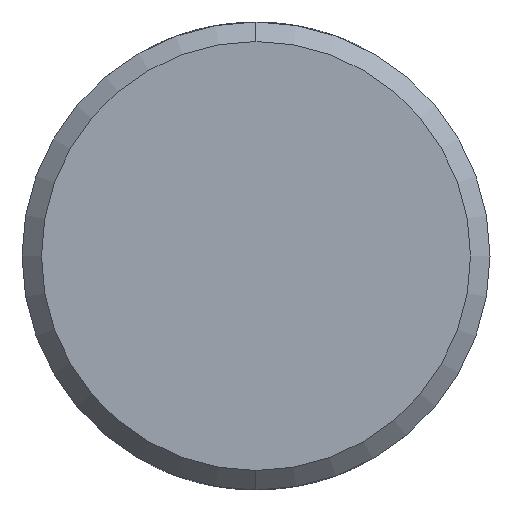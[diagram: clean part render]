
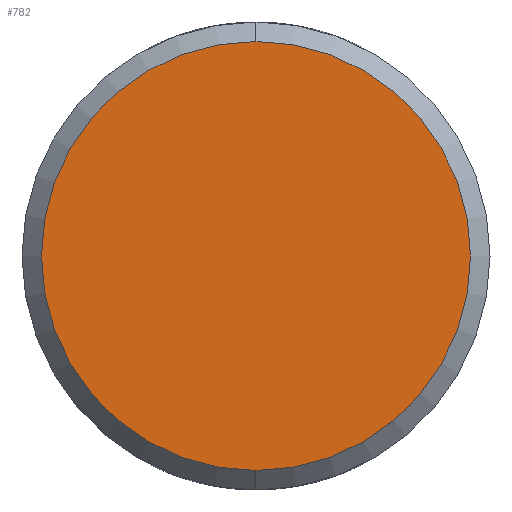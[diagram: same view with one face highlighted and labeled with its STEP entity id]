
A CAD part, left-side view. The second image highlights one B-rep face of the part: STEP entity #782.
In plain terms, the highlighted planar face has unit normal (-1, 0, 0).
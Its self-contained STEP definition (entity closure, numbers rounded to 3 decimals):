
#72 = DIRECTION ( 'NONE',  ( 0., 0., -1. ) ) ;
#179 = VERTEX_POINT ( 'NONE', #870 ) ;
#210 = ORIENTED_EDGE ( 'NONE', *, *, #845, .T. ) ;
#268 = VERTEX_POINT ( 'NONE', #645 ) ;
#325 = AXIS2_PLACEMENT_3D ( 'NONE', #533, #838, #380 ) ;
#339 = CARTESIAN_POINT ( 'NONE',  ( -57., 0., 0. ) ) ;
#380 = DIRECTION ( 'NONE',  ( 0., 0., -1. ) ) ;
#417 = DIRECTION ( 'NONE',  ( 1., 0., 0. ) ) ;
#494 = DIRECTION ( 'NONE',  ( 0., 0., -1. ) ) ;
#523 = ORIENTED_EDGE ( 'NONE', *, *, #864, .T. ) ;
#533 = CARTESIAN_POINT ( 'NONE',  ( -57., 0., 0. ) ) ;
#571 = PLANE ( 'NONE',  #636 ) ;
#636 = AXIS2_PLACEMENT_3D ( 'NONE', #339, #417, #494 ) ;
#643 = CIRCLE ( 'NONE', #991, 5.5 ) ;
#645 = CARTESIAN_POINT ( 'NONE',  ( -57., 0., 5.5 ) ) ;
#691 = CARTESIAN_POINT ( 'NONE',  ( -57., 0., 0. ) ) ;
#745 = EDGE_LOOP ( 'NONE', ( #210, #523 ) ) ;
#782 = ADVANCED_FACE ( 'NONE', ( #968 ), #571, .F. ) ;
#838 = DIRECTION ( 'NONE',  ( -1., 0., 0. ) ) ;
#845 = EDGE_CURVE ( 'NONE', #179, #268, #643, .T. ) ;
#864 = EDGE_CURVE ( 'NONE', #268, #179, #939, .T. ) ;
#870 = CARTESIAN_POINT ( 'NONE',  ( -57., 0., -5.5 ) ) ;
#939 = CIRCLE ( 'NONE', #325, 5.5 ) ;
#968 = FACE_OUTER_BOUND ( 'NONE', #745, .T. ) ;
#991 = AXIS2_PLACEMENT_3D ( 'NONE', #691, #1003, #72 ) ;
#1003 = DIRECTION ( 'NONE',  ( -1., 0., 0. ) ) ;
